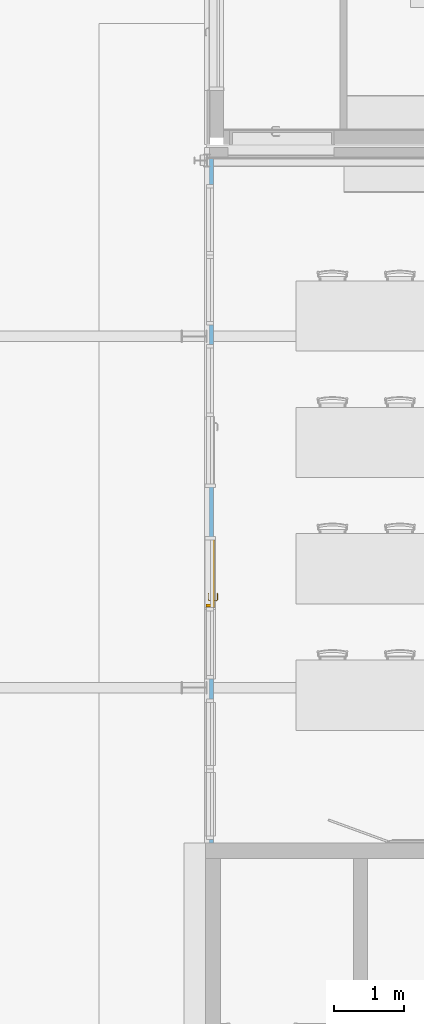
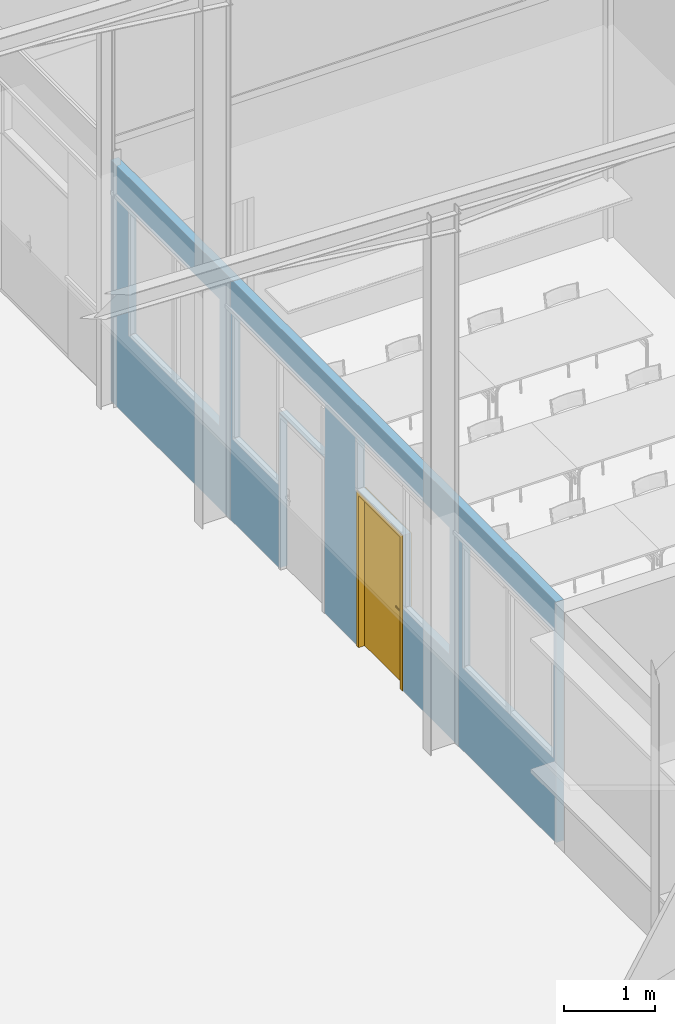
# One storey, part 91 of 137: 1 door, 8 openings, plus 1 element that does not belong to this part.
"""IFC2X3 building model written with IfcOpenShell, lengths in centimetres."""

from ifc_helpers import new_model, entity, si_unit, converted_unit, derived_unit, direction, frame, frame_2d, origin, origin_2d_with_axis, place, context, subcontext, project, spatial, polyline, rectangle, outline, extrude, clip, bounded_halfspace, faceted_brep, source, transform, mapped, material, material_list, layer, layer_set, layer_usage, type_object, type_shapes, element, fill, save


model = new_model("IFC2X3")

# Units and contexts
model_context = context("Model", 3, precision=0.001, world=origin(), true_north=direction((6.12303176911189e-17, 1.0)))
body_context = subcontext(model_context, "Body", "Model", "MODEL_VIEW")
ifc_project = project(units=[si_unit("LENGTHUNIT", "METRE", prefix="CENTI"), si_unit("AREAUNIT", "SQUARE_METRE"), si_unit("VOLUMEUNIT", "CUBIC_METRE"), converted_unit("PLANEANGLEUNIT", "DEGREE", entity("IfcRatioMeasure", 0.0174532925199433), si_unit("PLANEANGLEUNIT", "RADIAN"), dimensions=[0, 0, 0, 0, 0, 0, 0]), si_unit("MASSUNIT", "GRAM", prefix="KILO"), si_unit("TIMEUNIT", "SECOND"), si_unit("FREQUENCYUNIT", "HERTZ"), si_unit("THERMODYNAMICTEMPERATUREUNIT", "DEGREE_CELSIUS"), derived_unit("THERMALTRANSMITTANCEUNIT", [(si_unit("MASSUNIT", "GRAM", prefix="KILO"), 1), (si_unit("THERMODYNAMICTEMPERATUREUNIT", "KELVIN"), -1), (si_unit("TIMEUNIT", "SECOND"), -3)]), derived_unit("VOLUMETRICFLOWRATEUNIT", [(si_unit("LENGTHUNIT", "METRE"), 3), (si_unit("TIMEUNIT", "SECOND"), -1)]), si_unit("ELECTRICCURRENTUNIT", "AMPERE"), si_unit("ELECTRICVOLTAGEUNIT", "VOLT"), si_unit("POWERUNIT", "WATT"), si_unit("FORCEUNIT", "NEWTON", prefix="KILO"), si_unit("ILLUMINANCEUNIT", "LUX"), si_unit("LUMINOUSFLUXUNIT", "LUMEN"), si_unit("LUMINOUSINTENSITYUNIT", "CANDELA"), derived_unit("USERDEFINED", [(si_unit("MASSUNIT", "GRAM", prefix="KILO"), -1), (si_unit("LENGTHUNIT", "METRE"), -2), (si_unit("TIMEUNIT", "SECOND"), 3), (si_unit("LUMINOUSFLUXUNIT", "LUMEN"), 1)]), derived_unit("LINEARVELOCITYUNIT", [(si_unit("LENGTHUNIT", "METRE"), 1), (si_unit("TIMEUNIT", "SECOND"), -1)]), si_unit("PRESSUREUNIT", "PASCAL"), derived_unit("USERDEFINED", [(si_unit("LENGTHUNIT", "METRE"), -2), (si_unit("MASSUNIT", "GRAM", prefix="KILO"), 1), (si_unit("TIMEUNIT", "SECOND"), -2)])], contexts=[model_context])

# Site, building, storey
site_placement = place(None, frame((8.62739174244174, -249.285249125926, 0.0)))
site = spatial("IfcSite", under=ifc_project, at=site_placement, Name="Default", CompositionType="ELEMENT")
building_placement = place(site_placement, origin())
building = spatial("IfcBuilding", under=site, at=building_placement, CompositionType="ELEMENT")
storey_placement = place(building_placement, origin())
storey = spatial("IfcBuildingStorey", under=building, at=storey_placement, Name="RDC", CompositionType="ELEMENT", Elevation=-8.82465566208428e-11)

# Wall, openings, door
ifc_material_1 = material(Name="Plâtre EXISTANT")
ifc_layer = layer(ifc_material_1, 10.0)
ifc_layer_set = layer_set([ifc_layer], Name="Mur de base:PLA EXISTANT 10")
ifc_layer_usage = layer_usage(ifc_layer_set, "AXIS2", "NEGATIVE", 5.0)
wall_type = type_object("IfcWallType", Name="Mur de base:PLA EXISTANT 10", PredefinedType="STANDARD", material=ifc_layer_set)
wall_placement = place(storey_placement, frame((3034.90482780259, 2616.98020806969, 0.0), z_axis=(0.0, 0.0, 1.0), x_axis=(0.0, -1.0, 0.0)))
wall = element("IfcWallStandardCase", 1, at=wall_placement, inside=storey, type_object=wall_type, material=ifc_layer_usage, Name="Mur de base:PLA EXISTANT 10", ObjectType="Mur de base:PLA EXISTANT 10", context=body_context, shape_type="Clipping", body=[
    clip(extrude(rectangle(XDim=975.999999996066, YDim=10.0000000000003, at=frame_2d((487.999999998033, 3.10862446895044e-15), x_axis=(-1.0, 0.0))), origin(), (0.0, 0.0, 1.0), 322.000000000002), bounded_halfspace(frame((0.0, -5.0, 322.0), z_axis=(0.0, 0.0, -1.0), x_axis=(0.0, -1.0, 0.0)), True, frame((0.0, -5.0, 322.0)), polyline([(0.0, 0.0), (976.0, 0.0), (976.0, 10.0), (0.0, 10.0), (0.0, 0.0)]))),
])
opening_1_placement = place(wall_placement, origin())
element("IfcOpeningElement", 2, at=opening_1_placement, cuts=wall, Name="Mur de base:PLA EXISTANT 10", ObjectType="Opening", context=body_context, shape_type="SweptSolid", body=[
    extrude(rectangle(XDim=170.0, YDim=100.0, at=frame_2d((0.0, -1.10134124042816e-13), x_axis=(1.0, 0.0))), frame((821.0, -20.2399999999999, 195.0), z_axis=(0.0, 1.0, 0.0), x_axis=(0.0, 0.0, 1.0)), (0.0, 0.0, 1.0), 40.4799999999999),
])
opening_2_placement = place(wall_placement, origin())
element("IfcOpeningElement", 3, at=opening_2_placement, cuts=wall, Name="Mur de base:PLA EXISTANT 10", ObjectType="Opening", context=body_context, shape_type="SweptSolid", body=[
    extrude(rectangle(XDim=170.0, YDim=100.0, at=frame_2d((0.0, -1.10134124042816e-13), x_axis=(1.0, 0.0))), frame((921.0, -20.2399999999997, 195.0), z_axis=(0.0, 1.0, 0.0), x_axis=(0.0, 0.0, 1.0)), (0.0, 0.0, 1.0), 40.4799999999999),
])
opening_3_placement = place(wall_placement, origin())
element("IfcOpeningElement", 4, at=opening_3_placement, cuts=wall, Name="Mur de base:PLA EXISTANT 10", ObjectType="Opening", context=body_context, shape_type="SweptSolid", body=[
    extrude(outline(polyline([(-89.3333333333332, -101.666666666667), (80.6666666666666, -101.666666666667), (80.6666666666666, 101.333333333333), (8.66666666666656, 101.333333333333), (8.66666666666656, 0.333333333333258), (-89.3333333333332, 0.333333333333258), (-89.3333333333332, -101.666666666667)])), frame((368.666666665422, -20.2399999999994, 199.333333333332), z_axis=(0.0, 1.0, 0.0), x_axis=(0.0, 0.0, 1.0)), (0.0, 0.0, 1.0), 40.4799999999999),
])
opening_4_placement = place(wall_placement, origin())
element("IfcOpeningElement", 5, at=opening_4_placement, cuts=wall, Name="Mur de base:PLA EXISTANT 10", ObjectType="Opening", context=body_context, shape_type="SweptSolid", body=[
    extrude(outline(polyline([(-101.666666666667, -89.3333333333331), (0.333333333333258, -89.3333333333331), (0.333333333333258, 8.66666666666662), (101.333333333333, 8.66666666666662), (101.333333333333, 80.6666666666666), (-101.666666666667, 80.6666666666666), (-101.666666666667, -89.3333333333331)])), frame((641.333333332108, -20.2399999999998, 199.333333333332), z_axis=(0.0, 1.0, 0.0), x_axis=(-1.0, 0.0, 0.0)), (0.0, 0.0, 1.0), 40.4799999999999),
])
opening_5_placement = place(wall_placement, origin())
element("IfcOpeningElement", 6, at=opening_5_placement, cuts=wall, Name="Mur de base:PLA EXISTANT 10", ObjectType="Opening", context=body_context, shape_type="SweptSolid", body=[
    extrude(rectangle(XDim=170.0, YDim=99.9999999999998, at=origin_2d_with_axis()), frame((189.0, -20.2399999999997, 195.0), z_axis=(0.0, 1.0, 0.0), x_axis=(0.0, 0.0, 1.0)), (0.0, 0.0, 1.0), 40.4799999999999),
])
opening_6_placement = place(wall_placement, origin())
element("IfcOpeningElement", 7, at=opening_6_placement, cuts=wall, Name="Mur de base:PLA EXISTANT 10", ObjectType="Opening", context=body_context, shape_type="SweptSolid", body=[
    extrude(rectangle(XDim=170.0, YDim=99.9999999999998, at=origin_2d_with_axis()), frame((89.0, -20.2399999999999, 195.0), z_axis=(0.0, 1.0, 0.0), x_axis=(0.0, 0.0, 1.0)), (0.0, 0.0, 1.0), 40.4799999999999),
])
opening_7_placement = place(wall_placement, frame((370.0, -5.0, 0.0)))
element("IfcOpeningElement", 8, at=opening_7_placement, cuts=wall, Name="Simple(R)_bois_Existant_mu:93 x 204 cm:1", ObjectType="Opening", context=body_context, shape_type="SweptSolid", body=[
    extrude(rectangle(XDim=206.999999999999, YDim=98.9999999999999, at=frame_2d((103.499999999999, 49.4999999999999), x_axis=(1.0, 0.0))), frame((0.0, 0.0, 0.0), z_axis=(0.0, 1.0, 0.0), x_axis=(0.0, 0.0, 1.0)), (0.0, 0.0, 1.0), 10.0),
])
opening_8_placement = place(wall_placement, frame((541.0, -5.0, 0.0)))
opening_8 = element("IfcOpeningElement", 9, at=opening_8_placement, cuts=wall, Name="Simple(R)_bois_Existant_mu:93 x 204 cm:1", ObjectType="Opening", context=body_context, shape_type="SweptSolid", body=[
    extrude(rectangle(XDim=206.999999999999, YDim=98.9999999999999, at=frame_2d((103.499999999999, 49.5000000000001), x_axis=(1.0, 0.0))), frame((0.0, 0.0, 0.0), z_axis=(0.0, 1.0, 0.0), x_axis=(0.0, 0.0, 1.0)), (0.0, 0.0, 1.0), 10.0),
])
ifc_material_2 = material(Name="Porte - Poignée")
ifc_material_3 = material(Name="Porte - Cadre")
ifc_material_4 = material(Name="Porte - Panneau")
ifc_material_list_1 = material_list([ifc_material_2, ifc_material_3, ifc_material_4])
ifc_material_list_2 = material_list([ifc_material_2, ifc_material_3, ifc_material_4])
door_style = type_object("IfcDoorStyle", Name="93 x 204 cm", ConstructionType="NOTDEFINED", OperationType="SINGLE_SWING_RIGHT", ParameterTakesPrecedence=False, Sizeable=False, material=ifc_material_list_2)
shared_shape = source(origin(), body_context, "Body", "Brep", [
    faceted_brep([(8.29747013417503, 3.69999999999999, 100.778044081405), (7.89999999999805, 3.69999999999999, 100.699999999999), (7.89999999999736, 3.69999999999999, 99.2999999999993), (8.29747013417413, 3.69999999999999, 99.2219559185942), (8.70252986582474, 3.69999999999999, 99.2219559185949), (9.10000000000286, 3.69999999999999, 99.3000000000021), (9.10000000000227, 3.69999999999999, 100.699999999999), (8.70252986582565, 3.69999999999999, 100.778044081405), (9.10000000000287, 5.94852045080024, 99.3000000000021), (9.10000000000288, 5.94852045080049, 100.699999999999), (8.70252986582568, 6.1131579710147, 100.778044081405), (10.0838906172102, 7.49451872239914, 100.778044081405), (9.91610938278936, 7.89957845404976, 100.778044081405), (8.29747013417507, 6.2809392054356, 100.778044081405), (19.0684749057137, 6.84673156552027, 100.778044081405), (19.3548953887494, 7.13315204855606, 100.778044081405), (18.5884689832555, 7.89957845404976, 100.778044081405), (18.4206877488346, 7.49451872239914, 100.778044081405), (7.89999999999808, 6.44557672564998, 100.699999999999), (7.89999999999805, 6.44557672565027, 99.2999999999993), (8.29747013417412, 6.28093920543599, 99.2219559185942), (9.91610938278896, 7.8995784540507, 99.2219559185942), (10.0838906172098, 7.49451872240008, 99.2219559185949), (8.70252986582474, 6.11315797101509, 99.2219559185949), (19.35489538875, 7.1331520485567, 99.2219559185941), (19.0684749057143, 6.84673156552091, 99.2219559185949), (18.420687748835, 7.49451872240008, 99.2219559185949), (18.5884689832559, 7.8995784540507, 99.2219559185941), (10.2485281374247, 7.09704858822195, 99.3000000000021), (10.2485281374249, 7.09704858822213, 100.699999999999), (9.75147186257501, 8.29704858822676, 100.699999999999), (9.75147186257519, 8.29704858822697, 99.2999999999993), (14.2522904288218, 7.09704858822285, 99.3000000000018), (18.2560502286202, 7.09704858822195, 99.3000000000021), (18.2560502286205, 7.09704858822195, 100.699999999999), (14.2522891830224, 7.09704858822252, 100.699999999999), (14.2522891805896, 7.71249275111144, 100.787811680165), (18.7531065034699, 8.29704858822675, 100.699999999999), (14.760057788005, 8.29704858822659, 100.699999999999), (18.7531065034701, 8.29704858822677, 99.2999999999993), (13.7445206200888, 8.29704858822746, 99.2999999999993), (14.2522892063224, 7.71249274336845, 99.2121883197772), (18.787421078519, 6.56567773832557, 99.3000000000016), (19.6359492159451, 7.41420587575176, 99.2999999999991), (19.6359492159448, 7.4142058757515, 100.699999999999), (18.7874210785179, 6.5656777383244, 100.699999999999)], [[[0, 1, 2, 3, 4, 5, 6, 7]], [[6, 5, 8, 9]], [[9, 10, 7, 6]], [[10, 11, 12, 13, 0, 7]], [[14, 15, 16, 17]], [[13, 18, 1, 0]], [[2, 1, 18, 19]], [[19, 20, 3, 2]], [[20, 21, 22, 23, 4, 3]], [[24, 25, 26, 27]], [[23, 8, 5, 4]], [[9, 8, 28, 29]], [[29, 11, 10, 9]], [[12, 30, 18, 13]], [[19, 18, 30, 31]], [[31, 21, 20, 19]], [[22, 28, 8, 23]], [[29, 28, 32, 33, 34, 35]], [[11, 35, 36]], [[16, 37, 38]], [[30, 12, 38]], [[38, 12, 36]], [[36, 35, 17]], [[17, 16, 36]], [[35, 11, 29]], [[34, 17, 35]], [[11, 36, 12]], [[38, 36, 16]], [[31, 30, 38, 37, 39, 40]], [[40, 41, 21]], [[41, 40, 27]], [[21, 31, 40]], [[39, 27, 40]], [[41, 32, 22]], [[22, 21, 41]], [[26, 32, 41]], [[28, 22, 32]], [[32, 26, 33]], [[26, 41, 27]], [[42, 25, 24, 43, 44, 15, 14, 45]], [[34, 33, 42, 45]], [[45, 14, 17, 34]], [[15, 44, 37, 16]], [[39, 37, 44, 43]], [[43, 24, 27, 39]], [[25, 42, 33, 26]]]),
    faceted_brep([(8.29747013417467, -1.30000000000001, 100.778044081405), (8.7025298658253, -1.30000000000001, 100.778044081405), (9.10000000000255, -1.30000000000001, 100.699999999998), (9.10000000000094, -1.30000000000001, 99.3000000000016), (8.70252986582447, -1.30000000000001, 99.2219559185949), (8.29747013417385, -1.30000000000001, 99.2219559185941), (7.89999999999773, -1.30000000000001, 99.2999999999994), (7.89999999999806, -1.30000000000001, 100.699999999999), (7.89999999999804, -4.06509507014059, 100.699999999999), (8.29747013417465, -3.90045754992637, 100.778044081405), (9.90235851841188, -5.50534593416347, 100.778044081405), (10.0701397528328, -5.10028620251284, 100.778044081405), (8.70252986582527, -3.73267631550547, 100.778044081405), (19.3521810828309, -4.73891952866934, 100.778044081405), (19.0657605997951, -4.4524990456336, 100.778044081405), (18.417973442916, -5.10028620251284, 100.778044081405), (18.5857546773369, -5.50534593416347, 100.778044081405), (9.10000000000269, -3.56803879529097, 100.699999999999), (9.10000000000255, -3.56803879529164, 99.3000000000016), (8.70252986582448, -3.7326763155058, 99.2219559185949), (10.0701397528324, -5.10028620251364, 99.2219559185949), (9.90235851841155, -5.50534593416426, 99.2219559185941), (8.29747013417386, -3.9004575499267, 99.2219559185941), (19.0657605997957, -4.45249904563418, 99.2219559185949), (19.3521810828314, -4.73891952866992, 99.2219559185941), (18.5857546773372, -5.50534593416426, 99.2219559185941), (18.4179734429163, -5.10028620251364, 99.2219559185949), (7.89999999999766, -4.06509507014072, 99.2999999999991), (9.73772099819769, -5.90281606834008, 100.699999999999), (10.2347772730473, -4.70281606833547, 100.699999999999), (10.2347772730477, -4.70281606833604, 99.3000000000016), (9.7377209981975, -5.90281606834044, 99.2999999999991), (13.7307697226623, -5.90281606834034, 100.699999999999), (14.2440566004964, -5.31828027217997, 100.787811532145), (18.7503921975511, -5.90281606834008, 100.699999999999), (14.2440565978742, -4.70281606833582, 100.699999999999), (18.2533359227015, -4.70281606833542, 100.699999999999), (18.2533359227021, -4.70281606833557, 99.3000000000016), (14.2440563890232, -4.70281606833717, 99.3000000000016), (14.2440565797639, -5.31828027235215, 99.2121884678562), (18.7503921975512, -5.90281606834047, 99.2999999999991), (14.7573433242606, -5.90281606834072, 99.2999999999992), (18.7847067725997, -4.1714452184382, 100.699999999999), (19.6332349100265, -5.01997335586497, 100.699999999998), (19.633234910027, -5.01997335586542, 99.2999999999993), (18.7847067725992, -4.17144521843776, 99.3000000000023)], [[[0, 1, 2, 3, 4, 5, 6, 7]], [[8, 9, 0, 7]], [[9, 10, 11, 12, 1, 0]], [[13, 14, 15, 16]], [[12, 17, 2, 1]], [[3, 2, 17, 18]], [[18, 19, 4, 3]], [[19, 20, 21, 22, 5, 4]], [[23, 24, 25, 26]], [[22, 27, 6, 5]], [[7, 6, 27, 8]], [[28, 10, 9, 8]], [[11, 29, 17, 12]], [[18, 17, 29, 30]], [[30, 20, 19, 18]], [[21, 31, 27, 22]], [[8, 27, 31, 28]], [[32, 33, 10]], [[33, 32, 16]], [[10, 28, 32]], [[34, 16, 32]], [[33, 35, 11]], [[11, 10, 33]], [[15, 35, 33]], [[29, 11, 35]], [[35, 15, 36]], [[15, 33, 16]], [[30, 29, 35, 36, 37, 38]], [[20, 38, 39]], [[25, 40, 41]], [[31, 21, 41]], [[41, 21, 39]], [[39, 38, 26]], [[26, 25, 39]], [[38, 20, 30]], [[37, 26, 38]], [[20, 39, 21]], [[41, 39, 25]], [[28, 31, 41, 40, 34, 32]], [[42, 14, 13, 43, 44, 24, 23, 45]], [[43, 13, 16, 34]], [[14, 42, 36, 15]], [[37, 36, 42, 45]], [[45, 23, 26, 37]], [[24, 44, 40, 25]], [[34, 40, 44, 43]]]),
    faceted_brep([(9.53527618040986, 3.19999999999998, 86.6003983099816), (10.4999999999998, 3.19999999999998, 87.0), (10.4999999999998, 3.19999999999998, 108.0), (9.53527618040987, 3.19999999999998, 108.399601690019), (8.49999999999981, 3.19999999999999, 108.535898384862), (7.46472381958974, 3.19999999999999, 108.399601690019), (6.49999999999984, 3.19999999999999, 108.0), (6.49999999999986, 3.19999999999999, 87.0), (7.46472381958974, 3.19999999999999, 86.6003983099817), (8.49999999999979, 3.19999999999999, 86.4641016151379), (9.53527618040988, 3.69999999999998, 108.399601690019), (10.4999999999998, 3.69999999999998, 108.0), (10.4999999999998, 3.69999999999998, 87.0), (9.53527618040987, 3.69999999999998, 86.6003983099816), (8.4999999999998, 3.69999999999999, 86.4641016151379), (7.46472381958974, 3.69999999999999, 86.6003983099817), (6.49999999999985, 3.69999999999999, 87.0), (6.49999999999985, 3.69999999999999, 108.0), (7.46472381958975, 3.69999999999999, 108.399601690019), (8.49999999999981, 3.69999999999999, 108.535898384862)], [[[0, 1, 2, 3, 4, 5, 6, 7, 8, 9]], [[10, 11, 12, 13, 14, 15, 16, 17, 18, 19]], [[11, 10, 3, 2]], [[3, 10, 19, 4]], [[19, 18, 5, 4]], [[18, 17, 6, 5]], [[7, 6, 17, 16]], [[16, 15, 8, 7]], [[8, 15, 14, 9]], [[14, 13, 0, 9]], [[13, 12, 1, 0]], [[2, 1, 12, 11]]]),
    faceted_brep([(9.53527618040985, -1.30000000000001, 86.6003983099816), (10.4999999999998, -1.30000000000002, 87.0), (10.4999999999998, -1.30000000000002, 108.0), (9.53527618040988, -1.30000000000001, 108.399601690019), (8.49999999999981, -1.30000000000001, 108.535898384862), (7.46472381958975, -1.30000000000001, 108.399601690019), (6.49999999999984, -1.3, 108.0), (6.49999999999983, -1.3, 87.0), (7.46472381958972, -1.30000000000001, 86.6003983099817), (8.49999999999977, -1.30000000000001, 86.4641016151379), (9.53527618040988, -0.800000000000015, 108.399601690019), (10.4999999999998, -0.800000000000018, 108.0), (10.4999999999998, -0.800000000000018, 87.0), (9.53527618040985, -0.800000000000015, 86.6003983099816), (8.49999999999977, -0.800000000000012, 86.4641016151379), (7.46472381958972, -0.800000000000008, 86.6003983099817), (6.49999999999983, -0.800000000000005, 87.0), (6.49999999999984, -0.800000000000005, 108.0), (7.46472381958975, -0.800000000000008, 108.399601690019), (8.49999999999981, -0.800000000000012, 108.535898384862)], [[[0, 1, 2, 3, 4, 5, 6, 7, 8, 9]], [[10, 11, 12, 13, 14, 15, 16, 17, 18, 19]], [[16, 15, 8, 7]], [[8, 15, 14, 9]], [[14, 13, 0, 9]], [[13, 12, 1, 0]], [[2, 1, 12, 11]], [[11, 10, 3, 2]], [[3, 10, 19, 4]], [[19, 18, 5, 4]], [[18, 17, 6, 5]], [[7, 6, 17, 16]]]),
    faceted_brep([(0.0, 0.0, 0.0), (0.0, 10.0, 0.0), (-1.0, 10.0, 0.0), (-1.0, 10.8000000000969, 0.0), (4.0, 10.8000000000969, 0.0), (4.0, 3.2, 0.0), (3.0, 3.2, 0.0), (3.0, -0.799999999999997, 0.0), (-1.0, -0.799999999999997, 0.0), (-1.0, 0.0, 0.0), (0.0, 0.0, 207.0), (0.0, 10.0, 207.0), (99.0, 10.0, 207.0), (99.0, 10.0, 0.0), (100.0, 10.0, 0.0), (100.0, 10.0, 208.0), (-1.0, 10.0, 208.0), (-1.0, 10.8000000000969, 208.0), (100.0, 10.8000000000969, 208.0), (100.0, 10.8000000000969, 0.0), (95.0, 10.8000000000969, 0.0), (95.0, 10.8000000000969, 203.0), (4.0, 10.8000000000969, 203.0), (4.0, 3.2, 203.0), (95.0, 3.2, 203.0), (95.0, 3.2, 0.0), (96.0, 3.2, 0.0), (96.0, 3.2, 204.0), (3.0, 3.2, 204.0), (3.0, -0.799999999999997, 204.0), (96.0, -0.799999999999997, 204.0), (96.0, -0.799999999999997, 0.0), (100.0, -0.799999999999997, 0.0), (100.0, -0.799999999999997, 208.0), (-1.0, -0.799999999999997, 208.0), (-1.0, 0.0, 208.0), (100.0, 0.0, 208.0), (100.0, 0.0, 0.0), (99.0, 0.0, 0.0), (99.0, 0.0, 207.0)], [[[0, 1, 2, 3, 4, 5, 6, 7, 8, 9]], [[1, 0, 10, 11]], [[2, 1, 11, 12, 13, 14, 15, 16]], [[3, 2, 16, 17]], [[4, 3, 17, 18, 19, 20, 21, 22]], [[5, 4, 22, 23]], [[6, 5, 23, 24, 25, 26, 27, 28]], [[7, 6, 28, 29]], [[8, 7, 29, 30, 31, 32, 33, 34]], [[9, 8, 34, 35]], [[0, 9, 35, 36, 37, 38, 39, 10]], [[12, 39, 38, 13]], [[38, 37, 32, 31, 26, 25, 20, 19, 14, 13]], [[18, 15, 14, 19]], [[24, 21, 20, 25]], [[30, 27, 26, 31]], [[36, 33, 32, 37]], [[11, 10, 39, 12]], [[17, 16, 15, 18]], [[23, 22, 21, 24]], [[29, 28, 27, 30]], [[35, 34, 33, 36]]]),
    faceted_brep([(3.0, -0.799999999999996, 204.0), (3.0, -0.799999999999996, 0.0), (96.0, -0.799999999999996, 0.0), (96.0, -0.799999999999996, 204.0), (3.0, 3.2, 204.0), (96.0, 3.2, 204.0), (96.0, 3.2, 0.0), (3.0, 3.2, 0.0)], [[[0, 1, 2, 3]], [[4, 5, 6, 7]], [[1, 0, 4, 7]], [[2, 1, 7, 6]], [[3, 2, 6, 5]], [[0, 3, 5, 4]]]),
])
type_shapes(door_style, [shared_shape])
door_placement = place(opening_8_placement, frame((99.0, 10.0, 0.0), z_axis=(0.0, 0.0, 1.0), x_axis=(-1.0, 0.0, 0.0)))
door = element("IfcDoor", 10, at=door_placement, inside=storey, type_object=door_style, material=ifc_material_list_1, Name="Simple(R)_bois_Existant_mu:93 x 204 cm", ObjectType="93 x 204 cm", OverallHeight=206.999999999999, OverallWidth=99.0, context=body_context, shape_type="MappedRepresentation", body=[
    mapped(shared_shape, transform((0.0, 0.0, 0.0), scale=1.0)),
])
fill(opening_8, door)

save(model, "model.ifc")
